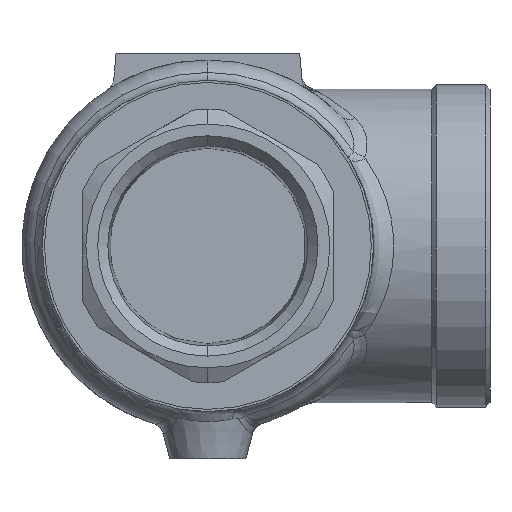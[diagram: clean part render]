
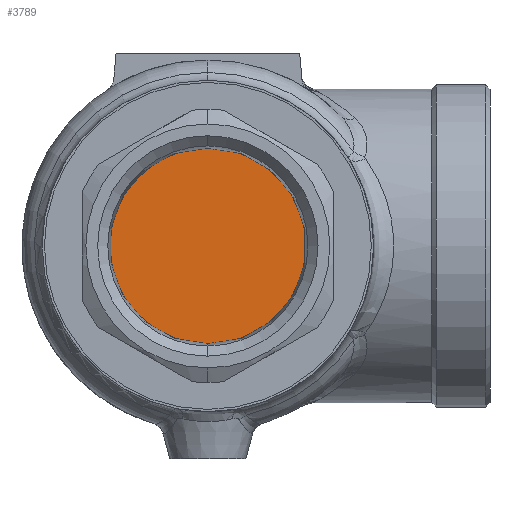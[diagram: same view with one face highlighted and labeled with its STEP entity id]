
A CAD part, front view. The second image highlights one B-rep face of the part: STEP entity #3789.
In plain terms, the highlighted planar face has unit normal (0, -1, 0).
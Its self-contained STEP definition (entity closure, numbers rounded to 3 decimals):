
#173 = EDGE_CURVE ( 'NONE', #3766, #640, #663, .T. ) ;
#460 = CARTESIAN_POINT ( 'NONE',  ( 0., -48., 21.83 ) ) ;
#640 = VERTEX_POINT ( 'NONE', #460 ) ;
#663 = CIRCLE ( 'NONE', #3823, 21.83 ) ;
#784 = CARTESIAN_POINT ( 'NONE',  ( 0., -48., 0. ) ) ;
#815 = DIRECTION ( 'NONE',  ( 0., 1., 0. ) ) ;
#836 = CARTESIAN_POINT ( 'NONE',  ( -21.83, -48., 0. ) ) ;
#1577 = AXIS2_PLACEMENT_3D ( 'NONE', #4551, #2363, #4494 ) ;
#1698 = DIRECTION ( 'NONE',  ( 0., 1., 0. ) ) ;
#2039 = ORIENTED_EDGE ( 'NONE', *, *, #173, .F. ) ;
#2246 = EDGE_LOOP ( 'NONE', ( #2039, #4125 ) ) ;
#2363 = DIRECTION ( 'NONE',  ( 0., 1., 0. ) ) ;
#2551 = DIRECTION ( 'NONE',  ( 0., 0., 1. ) ) ;
#2671 = AXIS2_PLACEMENT_3D ( 'NONE', #836, #1698, #2551 ) ;
#3296 = CARTESIAN_POINT ( 'NONE',  ( 0., -48., -21.83 ) ) ;
#3766 = VERTEX_POINT ( 'NONE', #3296 ) ;
#3789 = ADVANCED_FACE ( 'NONE', ( #5572 ), #4714, .F. ) ;
#3823 = AXIS2_PLACEMENT_3D ( 'NONE', #784, #815, #4208 ) ;
#4028 = CIRCLE ( 'NONE', #1577, 21.83 ) ;
#4125 = ORIENTED_EDGE ( 'NONE', *, *, #4625, .F. ) ;
#4208 = DIRECTION ( 'NONE',  ( 0., 0., 1. ) ) ;
#4494 = DIRECTION ( 'NONE',  ( 0., 0., 1. ) ) ;
#4551 = CARTESIAN_POINT ( 'NONE',  ( 0., -48., 0. ) ) ;
#4625 = EDGE_CURVE ( 'NONE', #640, #3766, #4028, .T. ) ;
#4714 = PLANE ( 'NONE',  #2671 ) ;
#5572 = FACE_OUTER_BOUND ( 'NONE', #2246, .T. ) ;
